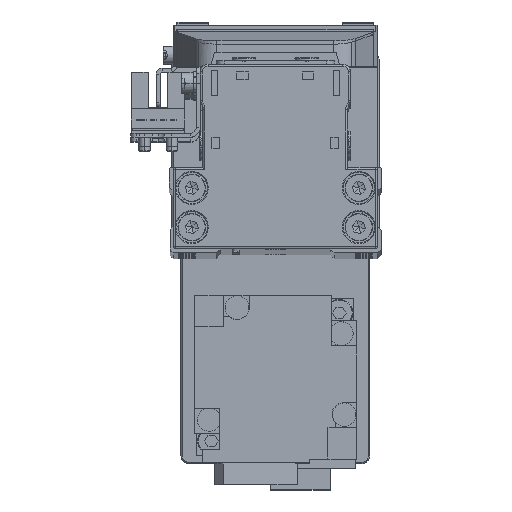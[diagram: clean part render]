
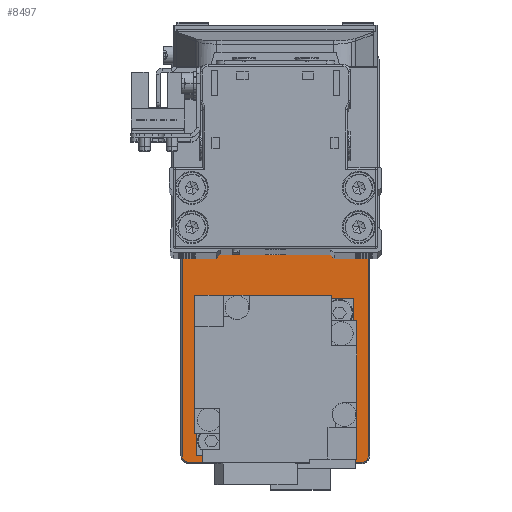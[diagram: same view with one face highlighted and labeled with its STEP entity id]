
A CAD part, top view. The second image highlights one B-rep face of the part: STEP entity #8497.
In plain terms, the highlighted planar face has unit normal (0, 0, 1).
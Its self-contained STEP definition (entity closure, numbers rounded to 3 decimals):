
#130 = CARTESIAN_POINT ( 'NONE',  ( -51.7, -22., 5. ) ) ;
#217 = EDGE_CURVE ( 'NONE', #16739, #8990, #36503, .T. ) ;
#333 = CIRCLE ( 'NONE', #23214, 10.3 ) ;
#423 = FACE_OUTER_BOUND ( 'NONE', #5438, .T. ) ;
#1264 = CARTESIAN_POINT ( 'NONE',  ( 50., -23.7, 5. ) ) ;
#1324 = ORIENTED_EDGE ( 'NONE', *, *, #22232, .T. ) ;
#1750 = CARTESIAN_POINT ( 'NONE',  ( 51.7, 22., 5. ) ) ;
#2909 = EDGE_CURVE ( 'NONE', #30953, #8199, #9577, .T. ) ;
#3631 = VERTEX_POINT ( 'NONE', #33462 ) ;
#3642 = CARTESIAN_POINT ( 'NONE',  ( -50., 23.7, 5. ) ) ;
#3848 = DIRECTION ( 'NONE',  ( 1., 0., 0. ) ) ;
#4145 = DIRECTION ( 'NONE',  ( 1., 0., 0. ) ) ;
#5005 = CARTESIAN_POINT ( 'NONE',  ( -17.7, 0., 5. ) ) ;
#5174 = CARTESIAN_POINT ( 'NONE',  ( -28., 0., 5. ) ) ;
#5390 = CARTESIAN_POINT ( 'NONE',  ( 50., -23.7, 5. ) ) ;
#5438 = EDGE_LOOP ( 'NONE', ( #27568, #30804, #5766, #33733, #26134, #16220, #12255, #19159 ) ) ;
#5766 = ORIENTED_EDGE ( 'NONE', *, *, #34067, .T. ) ;
#5937 = CARTESIAN_POINT ( 'NONE',  ( 51.7, 22., 5. ) ) ;
#6023 = CIRCLE ( 'NONE', #28941, 10.3 ) ;
#6696 = CARTESIAN_POINT ( 'NONE',  ( 30., 0., 5. ) ) ;
#6844 = DIRECTION ( 'NONE',  ( 1., 0., 0. ) ) ;
#7475 = AXIS2_PLACEMENT_3D ( 'NONE', #19421, #31901, #3848 ) ;
#8199 = VERTEX_POINT ( 'NONE', #130 ) ;
#8481 = DIRECTION ( 'NONE',  ( 1., 0., 0. ) ) ;
#8497 = ADVANCED_FACE ( 'NONE', ( #15988, #28489, #423 ), #12890, .T. ) ;
#8990 = VERTEX_POINT ( 'NONE', #14003 ) ;
#9476 = DIRECTION ( 'NONE',  ( 1., 0., 0. ) ) ;
#9577 = LINE ( 'NONE', #22089, #38149 ) ;
#9831 = DIRECTION ( 'NONE',  ( 1., 0., 0. ) ) ;
#11090 = AXIS2_PLACEMENT_3D ( 'NONE', #25067, #37562, #9476 ) ;
#12255 = ORIENTED_EDGE ( 'NONE', *, *, #2909, .T. ) ;
#12886 = CARTESIAN_POINT ( 'NONE',  ( -28., 0., 5. ) ) ;
#12890 = PLANE ( 'NONE',  #38170 ) ;
#13137 = ORIENTED_EDGE ( 'NONE', *, *, #217, .T. ) ;
#13748 = DIRECTION ( 'NONE',  ( 1., 0., 0. ) ) ;
#14003 = CARTESIAN_POINT ( 'NONE',  ( 17.2, 0., 5. ) ) ;
#15236 = CARTESIAN_POINT ( 'NONE',  ( -50., -23.7, 5. ) ) ;
#15695 = CIRCLE ( 'NONE', #38608, 1.7 ) ;
#15988 = FACE_BOUND ( 'NONE', #23776, .T. ) ;
#16137 = DIRECTION ( 'NONE',  ( -1., 0., 0. ) ) ;
#16220 = ORIENTED_EDGE ( 'NONE', *, *, #36039, .T. ) ;
#16739 = VERTEX_POINT ( 'NONE', #33306 ) ;
#16801 = CIRCLE ( 'NONE', #39658, 1.7 ) ;
#17632 = ORIENTED_EDGE ( 'NONE', *, *, #34229, .T. ) ;
#17672 = DIRECTION ( 'NONE',  ( 0., 0., -1. ) ) ;
#18449 = DIRECTION ( 'NONE',  ( 0., 1., 0. ) ) ;
#18576 = ORIENTED_EDGE ( 'NONE', *, *, #20803, .T. ) ;
#19159 = ORIENTED_EDGE ( 'NONE', *, *, #29517, .T. ) ;
#19216 = DIRECTION ( 'NONE',  ( 0., 0., -1. ) ) ;
#19421 = CARTESIAN_POINT ( 'NONE',  ( -50., 22., 5. ) ) ;
#19727 = CARTESIAN_POINT ( 'NONE',  ( 30., 0., 5. ) ) ;
#20803 = EDGE_CURVE ( 'NONE', #8990, #16739, #23136, .T. ) ;
#21284 = EDGE_CURVE ( 'NONE', #27338, #32293, #29326, .T. ) ;
#22089 = CARTESIAN_POINT ( 'NONE',  ( -51.7, -22., 5. ) ) ;
#22107 = VERTEX_POINT ( 'NONE', #35920 ) ;
#22232 = EDGE_CURVE ( 'NONE', #36671, #35947, #333, .T. ) ;
#22422 = CARTESIAN_POINT ( 'NONE',  ( -50., -22., 5. ) ) ;
#22513 = VERTEX_POINT ( 'NONE', #38330 ) ;
#23136 = CIRCLE ( 'NONE', #28380, 12.8 ) ;
#23214 = AXIS2_PLACEMENT_3D ( 'NONE', #5174, #17672, #30167 ) ;
#23776 = EDGE_LOOP ( 'NONE', ( #13137, #18576 ) ) ;
#24046 = CARTESIAN_POINT ( 'NONE',  ( 50., -22., 5. ) ) ;
#25067 = CARTESIAN_POINT ( 'NONE',  ( 50., 22., 5. ) ) ;
#25128 = CIRCLE ( 'NONE', #7475, 1.7 ) ;
#25404 = DIRECTION ( 'NONE',  ( 0., 0., -1. ) ) ;
#25407 = CARTESIAN_POINT ( 'NONE',  ( 0., 0., 5. ) ) ;
#26134 = ORIENTED_EDGE ( 'NONE', *, *, #27157, .T. ) ;
#26434 = VECTOR ( 'NONE', #13748, 1000. ) ;
#27157 = EDGE_CURVE ( 'NONE', #22513, #3631, #31702, .T. ) ;
#27338 = VERTEX_POINT ( 'NONE', #15236 ) ;
#27568 = ORIENTED_EDGE ( 'NONE', *, *, #21284, .T. ) ;
#28380 = AXIS2_PLACEMENT_3D ( 'NONE', #6696, #19216, #31684 ) ;
#28489 = FACE_BOUND ( 'NONE', #37808, .T. ) ;
#28769 = CIRCLE ( 'NONE', #11090, 1.7 ) ;
#28941 = AXIS2_PLACEMENT_3D ( 'NONE', #12886, #25404, #37899 ) ;
#29326 = LINE ( 'NONE', #1264, #26434 ) ;
#29517 = EDGE_CURVE ( 'NONE', #8199, #27338, #16801, .T. ) ;
#30167 = DIRECTION ( 'NONE',  ( 1., 0., 0. ) ) ;
#30804 = ORIENTED_EDGE ( 'NONE', *, *, #39536, .T. ) ;
#30953 = VERTEX_POINT ( 'NONE', #38614 ) ;
#31684 = DIRECTION ( 'NONE',  ( 1., 0., 0. ) ) ;
#31702 = LINE ( 'NONE', #3642, #37680 ) ;
#31901 = DIRECTION ( 'NONE',  ( 0., 0., 1. ) ) ;
#32203 = DIRECTION ( 'NONE',  ( 0., 0., -1. ) ) ;
#32293 = VERTEX_POINT ( 'NONE', #5390 ) ;
#32476 = EDGE_CURVE ( 'NONE', #36601, #22513, #28769, .T. ) ;
#32852 = VECTOR ( 'NONE', #18449, 1000. ) ;
#33306 = CARTESIAN_POINT ( 'NONE',  ( 42.8, 0., 5. ) ) ;
#33462 = CARTESIAN_POINT ( 'NONE',  ( -50., 23.7, 5. ) ) ;
#33733 = ORIENTED_EDGE ( 'NONE', *, *, #32476, .T. ) ;
#34006 = LINE ( 'NONE', #5937, #32852 ) ;
#34067 = EDGE_CURVE ( 'NONE', #22107, #36601, #34006, .T. ) ;
#34165 = CARTESIAN_POINT ( 'NONE',  ( -38.3, 0., 5. ) ) ;
#34229 = EDGE_CURVE ( 'NONE', #35947, #36671, #6023, .T. ) ;
#34581 = DIRECTION ( 'NONE',  ( 0., -1., 0. ) ) ;
#34904 = DIRECTION ( 'NONE',  ( 0., 0., 1. ) ) ;
#35920 = CARTESIAN_POINT ( 'NONE',  ( 51.7, -22., 5. ) ) ;
#35947 = VERTEX_POINT ( 'NONE', #34165 ) ;
#36039 = EDGE_CURVE ( 'NONE', #3631, #30953, #25128, .T. ) ;
#36470 = AXIS2_PLACEMENT_3D ( 'NONE', #19727, #32203, #4145 ) ;
#36503 = CIRCLE ( 'NONE', #36470, 12.8 ) ;
#36546 = DIRECTION ( 'NONE',  ( 0., 0., 1. ) ) ;
#36601 = VERTEX_POINT ( 'NONE', #1750 ) ;
#36671 = VERTEX_POINT ( 'NONE', #5005 ) ;
#37562 = DIRECTION ( 'NONE',  ( 0., 0., 1. ) ) ;
#37680 = VECTOR ( 'NONE', #16137, 1000. ) ;
#37808 = EDGE_LOOP ( 'NONE', ( #1324, #17632 ) ) ;
#37899 = DIRECTION ( 'NONE',  ( 1., 0., 0. ) ) ;
#37904 = DIRECTION ( 'NONE',  ( 0., 0., 1. ) ) ;
#38149 = VECTOR ( 'NONE', #34581, 1000. ) ;
#38170 = AXIS2_PLACEMENT_3D ( 'NONE', #25407, #37904, #9831 ) ;
#38330 = CARTESIAN_POINT ( 'NONE',  ( 50., 23.7, 5. ) ) ;
#38608 = AXIS2_PLACEMENT_3D ( 'NONE', #24046, #36546, #8481 ) ;
#38614 = CARTESIAN_POINT ( 'NONE',  ( -51.7, 22., 5. ) ) ;
#39536 = EDGE_CURVE ( 'NONE', #32293, #22107, #15695, .T. ) ;
#39658 = AXIS2_PLACEMENT_3D ( 'NONE', #22422, #34904, #6844 ) ;
